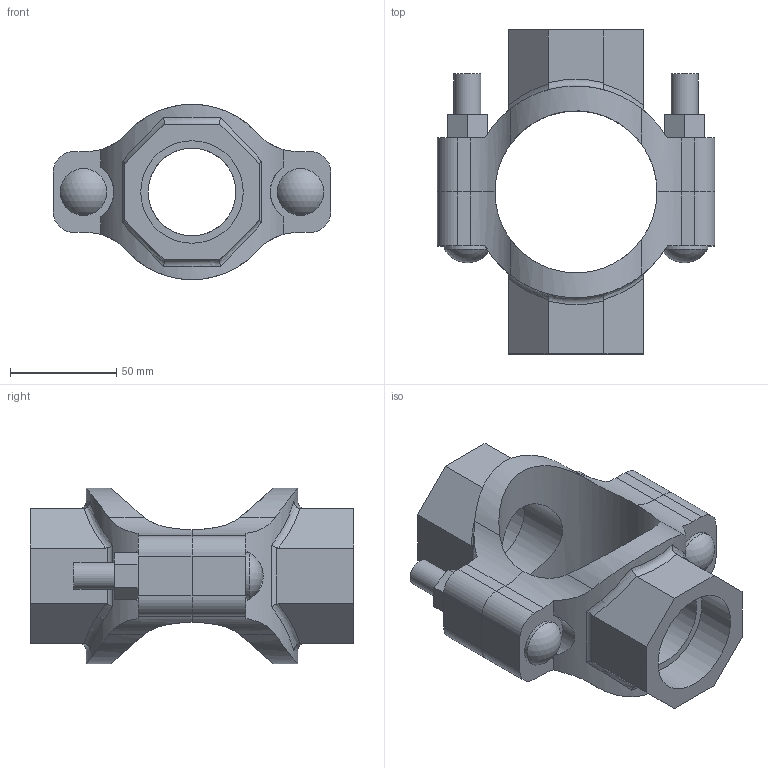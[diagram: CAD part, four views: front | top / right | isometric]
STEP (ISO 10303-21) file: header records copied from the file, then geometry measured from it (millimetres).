
FILE_DESCRIPTION(/* description */ ('VIC MECH-T BRANCH OUTLET CROSS STYLE 920N (THD)','CAx-IF Rec.Pracs.---Representation and Presentation of Product Manufacturing Information (PMI)---4.0---2014-10-13'),/* implementation_level */ '2;1');
FILE_NAME(/* name */ 'C:\Users\Vjadhav\AppData\Roaming\Autodesk\ApplicationPlugins\Back Up\Victaulic_IPS_Mechanical-Cross Outlet_Style 920N (FPT)\Victaulic_IPS_Mechanical-Cross Outlet_02.5 (76.1)x01.5x01.5 (65x40x40).stp',/* time_stamp */ '2020-08-06T18:56:59+05:00',/* author */ ('Vjadhav'),/* organization */ ('Victaulic'),/* preprocessor_version */ 'ST-DEVELOPER v17.2',/* originating_system */ 'Autodesk Inventor 2019',/* authorisation */ '');
FILE_SCHEMA (('AP242_MANAGED_MODEL_BASED_3D_ENGINEERING_MIM_LF { 1 0 10303 442 1 1 4 }'));
Length unit declared in the file: inch
Products named in the file (3): 920NT-02.5 (76.1)x01.5x01.5; 920NT-02.5 (76.1)x01.5; 920NT-02.5 (76.1)x01.5_1
Assembly tree (2 placements, depth 2):
  920NT-02.5 (76.1)x01.5x01.5
    920NT-02.5 (76.1)x01.5
    920NT-02.5 (76.1)x01.5_1
Bounding box: 130.56 x 152.4 x 82.53 mm (x, y, z)
Volume: 326845 mm3; surface area: 81752.8 mm2
Topology: 2 solids, 2 shells, 132 faces, 350 edges, 236 vertices
Faces by surface type: plane 68, cylinder 50, bspline 8, torus 4, sphere 2
Full cylindrical faces by diameter (mm): 12.7 x4, 21.982 x2, 41.275 x2, 48.26 x2
Entity records: 5294 total; most frequent: CARTESIAN_POINT 1781, ORIENTED_EDGE 700, DIRECTION 648, EDGE_CURVE 350, VERTEX_POINT 236, AXIS2_PLACEMENT_3D 231, LINE 186, VECTOR 186
